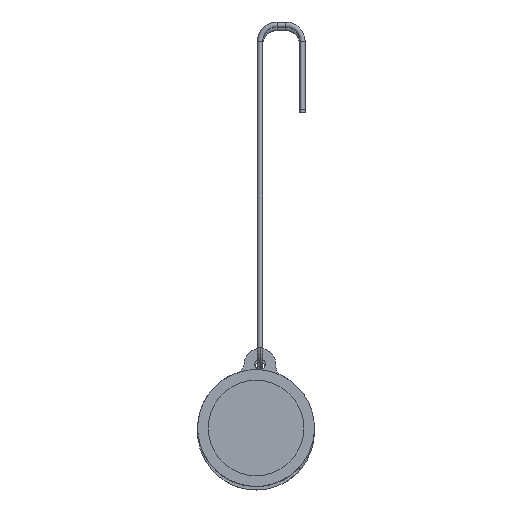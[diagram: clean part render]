
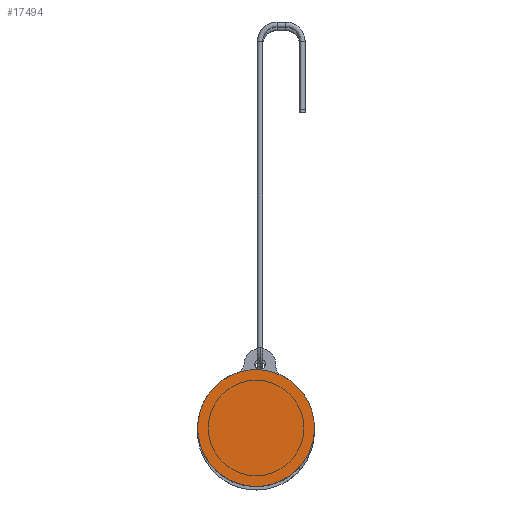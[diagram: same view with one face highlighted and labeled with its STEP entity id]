
A CAD part, top view. The second image highlights one B-rep face of the part: STEP entity #17494.
In plain terms, the highlighted planar face has unit normal (0, 0, 1) as drawn and (0, 1, 0) by its records, which use the part's own axes.
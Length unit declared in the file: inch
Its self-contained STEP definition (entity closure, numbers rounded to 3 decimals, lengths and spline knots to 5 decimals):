
#205 = DIRECTION ( 'NONE',  ( -1., 0., 0. ) ) ;
#712 = EDGE_LOOP ( 'NONE', ( #6807, #18725 ) ) ;
#906 = CIRCLE ( 'NONE', #16967, 1.375 ) ;
#2759 = FACE_OUTER_BOUND ( 'NONE', #712, .T. ) ;
#3452 = DIRECTION ( 'NONE',  ( 0., 1., 0. ) ) ;
#4348 = AXIS2_PLACEMENT_3D ( 'NONE', #7956, #3452, #13889 ) ;
#4359 = CARTESIAN_POINT ( 'NONE',  ( 0., 2.1, 0. ) ) ;
#4612 = AXIS2_PLACEMENT_3D ( 'NONE', #17801, #9129, #205 ) ;
#5909 = DIRECTION ( 'NONE',  ( -1., 0., 0. ) ) ;
#6807 = ORIENTED_EDGE ( 'NONE', *, *, #11714, .T. ) ;
#7956 = CARTESIAN_POINT ( 'NONE',  ( 0., 2.1, 0. ) ) ;
#9129 = DIRECTION ( 'NONE',  ( 0., 1., 0. ) ) ;
#11714 = EDGE_CURVE ( 'NONE', #14095, #13220, #906, .T. ) ;
#11893 = CIRCLE ( 'NONE', #4612, 1.375 ) ;
#12415 = PLANE ( 'NONE',  #4348 ) ;
#13220 = VERTEX_POINT ( 'NONE', #15926 ) ;
#13889 = DIRECTION ( 'NONE',  ( -1., 0., 0. ) ) ;
#14095 = VERTEX_POINT ( 'NONE', #15091 ) ;
#14732 = DIRECTION ( 'NONE',  ( 0., 1., 0. ) ) ;
#15091 = CARTESIAN_POINT ( 'NONE',  ( 0., 2.1, -1.375 ) ) ;
#15926 = CARTESIAN_POINT ( 'NONE',  ( 0., 2.1, 1.375 ) ) ;
#16967 = AXIS2_PLACEMENT_3D ( 'NONE', #4359, #14732, #5909 ) ;
#17494 = ADVANCED_FACE ( 'NONE', ( #2759 ), #12415, .T. ) ;
#17801 = CARTESIAN_POINT ( 'NONE',  ( 0., 2.1, 0. ) ) ;
#17990 = EDGE_CURVE ( 'NONE', #13220, #14095, #11893, .T. ) ;
#18725 = ORIENTED_EDGE ( 'NONE', *, *, #17990, .T. ) ;
